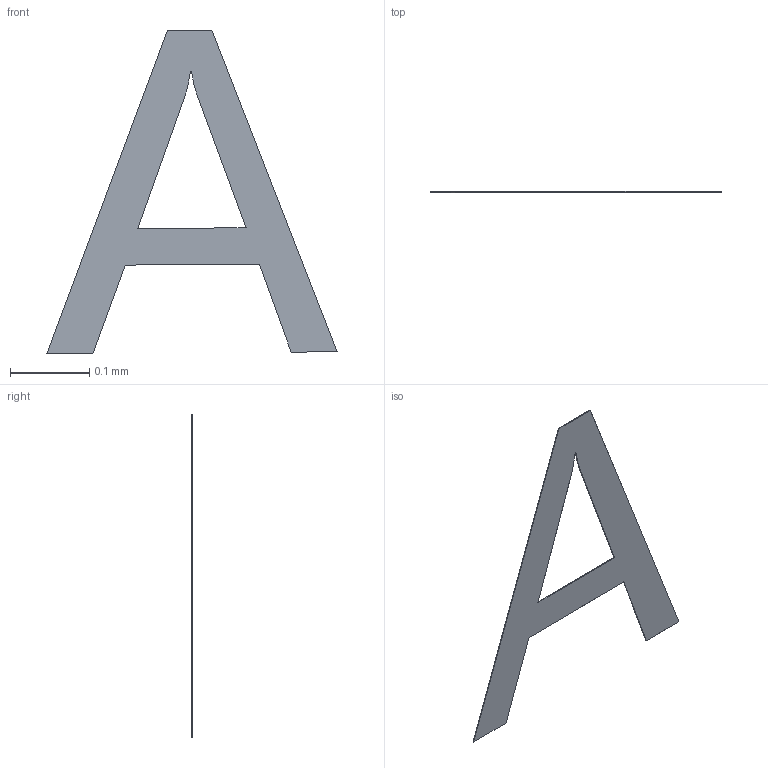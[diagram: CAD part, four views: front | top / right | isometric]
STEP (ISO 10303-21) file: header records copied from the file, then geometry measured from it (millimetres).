
FILE_DESCRIPTION(/* description */ ('STEP AP242 Edition 2','CAx-IF Rec.Pracs.---Representation and Presentation of Product Manufacturing Information (PMI)---4.0---2014-10-13','CAx-IF Rec.Pracs.---3D Tessellated Geometry---0.4---2014-09-14','2;1','CAx-IF Rec.Pracs.---User Defined Attributes---1.5---2016-08-15'),/* implementation_level */ '2;1');
FILE_NAME(/* name */ 'Assembly 1 - SW-TH_EC11E18244A5~SW-TH_EC11E18244A5-L11.7-W12.0-H24.5-P2.5-LS14.5~nxQB (9)',/* time_stamp */ '2026-04-02T09:55:29Z',/* author */ (''),/* organization */ (''),/* preprocessor_version */ 'ST-DEVELOPER v20',/* originating_system */ 'ONSHAPE BY PTC INC, 1.212',/* authorisation */ ' ');
FILE_SCHEMA (('AP242_MANAGED_MODEL_BASED_3D_ENGINEERING_MIM_LF { 1 0 10303 442 3 1 4 }'));
Length unit declared in the file: metre
Products named in the file (1): SW-TH_EC11E18244A5~SW-TH_EC11E18244A5-L11.7-W12.0-H24.5-P2.5-LS14.5~n
xQB
Bounding box: 0.37 x 0 x 0.41 mm (x, y, z)
Volume: 0 mm3; surface area: 0.1 mm2
Topology: 1 solids, 1 shells, 16 faces, 42 edges, 28 vertices
Faces by surface type: plane 14, bspline 2
Entity records: 637 total; most frequent: CARTESIAN_POINT 113, ORIENTED_EDGE 84, DIRECTION 68, EDGE_CURVE 42, LINE 38, VECTOR 38, VERTEX_POINT 28, EDGE_LOOP 18
